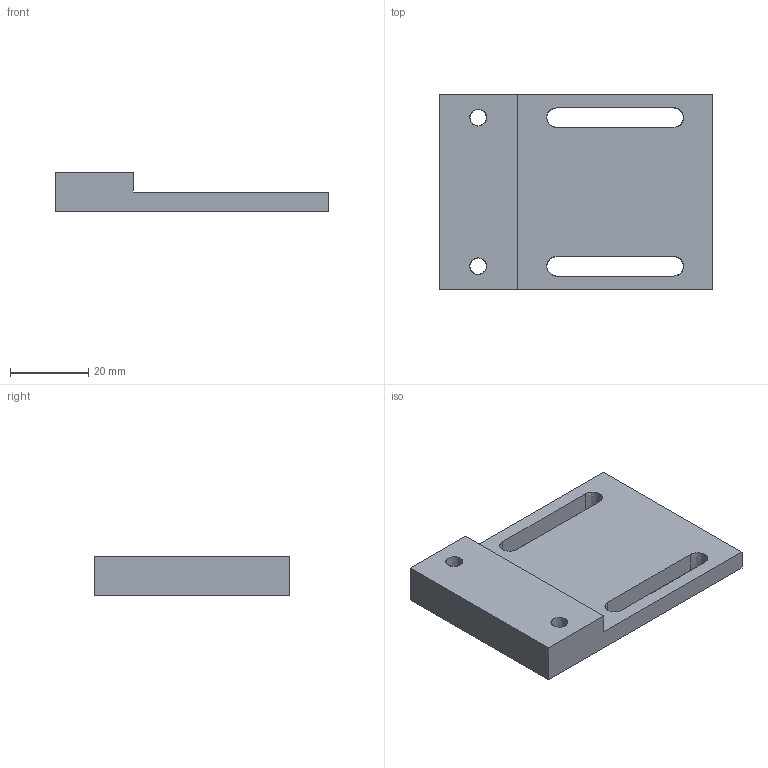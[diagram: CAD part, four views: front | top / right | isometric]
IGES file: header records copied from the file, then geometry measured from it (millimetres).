
Start section:  PTC IGES file: 370793_cp-030.igs
Global section: file name: 370793_cp-030.igs; native system: Pro/ENGINEER by Parametric Technology Corporation; preprocessor: 2004090; author: KAIHATSU01; organization: Unknown; date: 061017.093530; units: millimetre
Bounding box: 70 x 50 x 10 mm (x, y, z)
Volume: 20187.2 mm3; surface area: 9295.7 mm2
Topology: 1 solids, 1 shells, 26 faces, 66 edges, 44 vertices
Faces by surface type: bspline 26
